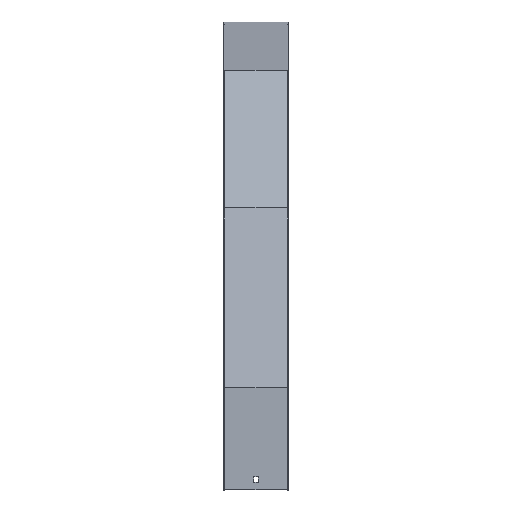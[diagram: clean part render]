
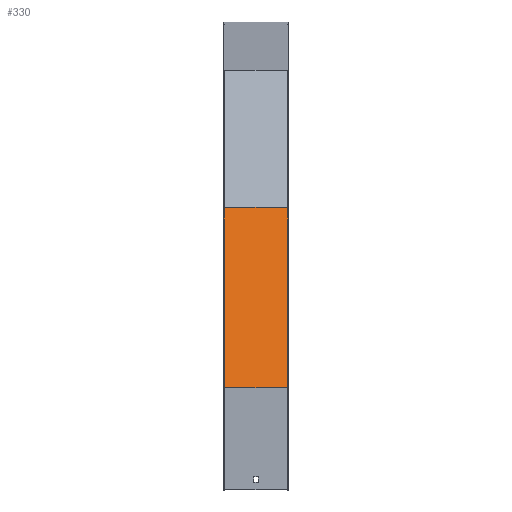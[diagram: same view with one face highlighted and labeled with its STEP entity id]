
A CAD part, top view. The second image highlights one B-rep face of the part: STEP entity #330.
In plain terms, the highlighted planar face has unit normal (0, 0.259, 0.966).
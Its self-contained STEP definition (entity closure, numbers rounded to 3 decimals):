
#13 = ORIENTED_EDGE ( 'NONE', *, *, #1069, .F. ) ;
#16 = DIRECTION ( 'NONE',  ( 0., -0.966, 0.259 ) ) ;
#30 = CARTESIAN_POINT ( 'NONE',  ( 51.5, -281.047, 669.896 ) ) ;
#71 = DIRECTION ( 'NONE',  ( 0., -0.259, -0.966 ) ) ;
#88 = CARTESIAN_POINT ( 'NONE',  ( 51.5, -275.871, 668.509 ) ) ;
#123 = CARTESIAN_POINT ( 'NONE',  ( 51.5, -562.743, 745.376 ) ) ;
#128 = DIRECTION ( 'NONE',  ( -1., 0., 0. ) ) ;
#131 = EDGE_CURVE ( 'NONE', #931, #1115, #1075, .T. ) ;
#139 = PLANE ( 'NONE',  #266 ) ;
#150 = CARTESIAN_POINT ( 'NONE',  ( 51.5, -275.871, 668.509 ) ) ;
#202 = CARTESIAN_POINT ( 'NONE',  ( -51.5, -562.743, 745.376 ) ) ;
#219 = LINE ( 'NONE', #30, #349 ) ;
#263 = VERTEX_POINT ( 'NONE', #857 ) ;
#266 = AXIS2_PLACEMENT_3D ( 'NONE', #839, #71, #484 ) ;
#271 = ORIENTED_EDGE ( 'NONE', *, *, #131, .T. ) ;
#291 = VECTOR ( 'NONE', #475, 1000. ) ;
#323 = FACE_OUTER_BOUND ( 'NONE', #873, .T. ) ;
#330 = ADVANCED_FACE ( 'NONE', ( #323 ), #139, .F. ) ;
#349 = VECTOR ( 'NONE', #16, 1000. ) ;
#413 = CARTESIAN_POINT ( 'NONE',  ( -51.5, -275.871, 668.509 ) ) ;
#453 = VERTEX_POINT ( 'NONE', #88 ) ;
#475 = DIRECTION ( 'NONE',  ( 0., -0.966, 0.259 ) ) ;
#482 = CARTESIAN_POINT ( 'NONE',  ( -51.5, -281.047, 669.896 ) ) ;
#484 = DIRECTION ( 'NONE',  ( 0., 0.966, -0.259 ) ) ;
#498 = EDGE_CURVE ( 'NONE', #453, #931, #916, .T. ) ;
#519 = ORIENTED_EDGE ( 'NONE', *, *, #743, .F. ) ;
#671 = VECTOR ( 'NONE', #128, 1000. ) ;
#743 = EDGE_CURVE ( 'NONE', #263, #1115, #1060, .T. ) ;
#773 = ORIENTED_EDGE ( 'NONE', *, *, #498, .T. ) ;
#824 = VECTOR ( 'NONE', #1003, 1000. ) ;
#839 = CARTESIAN_POINT ( 'NONE',  ( 51.5, -281.047, 669.896 ) ) ;
#857 = CARTESIAN_POINT ( 'NONE',  ( 51.5, -562.743, 745.376 ) ) ;
#873 = EDGE_LOOP ( 'NONE', ( #271, #519, #13, #773 ) ) ;
#916 = LINE ( 'NONE', #150, #824 ) ;
#931 = VERTEX_POINT ( 'NONE', #413 ) ;
#1003 = DIRECTION ( 'NONE',  ( -1., 0., 0. ) ) ;
#1060 = LINE ( 'NONE', #123, #671 ) ;
#1069 = EDGE_CURVE ( 'NONE', #453, #263, #219, .T. ) ;
#1075 = LINE ( 'NONE', #482, #291 ) ;
#1115 = VERTEX_POINT ( 'NONE', #202 ) ;
